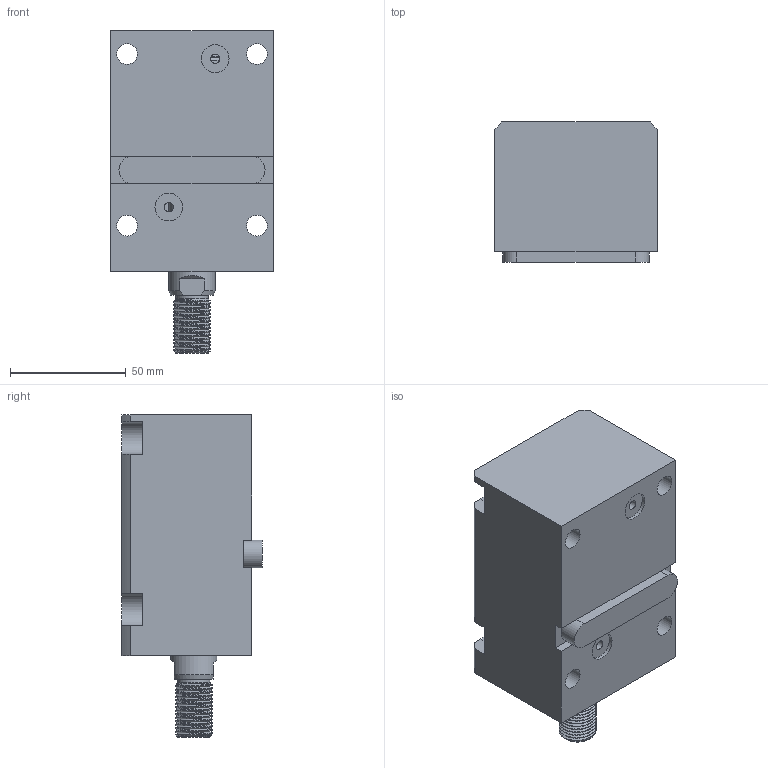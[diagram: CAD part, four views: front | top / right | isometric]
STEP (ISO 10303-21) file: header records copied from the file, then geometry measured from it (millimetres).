
FILE_DESCRIPTION(/* description */ (''),/* implementation_level */ '2;1');
FILE_NAME(/* name */ 'CHTB-LAM32-50W.stp',/* time_stamp */ '2022-04-29T16:11:07+08:00',/* author */ (''),/* organization */ (''),/* preprocessor_version */ 'ST-DEVELOPER v16.7',/* originating_system */ 'SIEMENS PLM Software NX 12.0',/* authorisation */ '');
FILE_SCHEMA (('AUTOMOTIVE_DESIGN { 1 0 10303 214 3 1 1 1 }'));
Length unit declared in the file: millimetre
Products named in the file (1): CHTB-LAM32-50W
Bounding box: 70 x 60.5 x 139 mm (x, y, z)
Volume: 370474.6 mm3; surface area: 70647 mm2
Topology: 3 solids, 3 shells, 471 faces, 1376 edges, 947 vertices
Faces by surface type: plane 312, extrusion 85, cylinder 40, bspline 12, torus 12, cone 10
Full cylindrical faces by diameter (mm): 3 x2, 4 x2, 9 x4, 12 x2, 14 x1, 20 x2, 24 x1, 24.5 x1, 26 x1, 32 x4, 40 x1
Entity records: 24627 total; most frequent: CARTESIAN_POINT 10521, ORIENTED_EDGE 2648, DIRECTION 1913, EDGE_CURVE 1324, VECTOR 983, VERTEX_POINT 937, LINE 898, EDGE_LOOP 557
